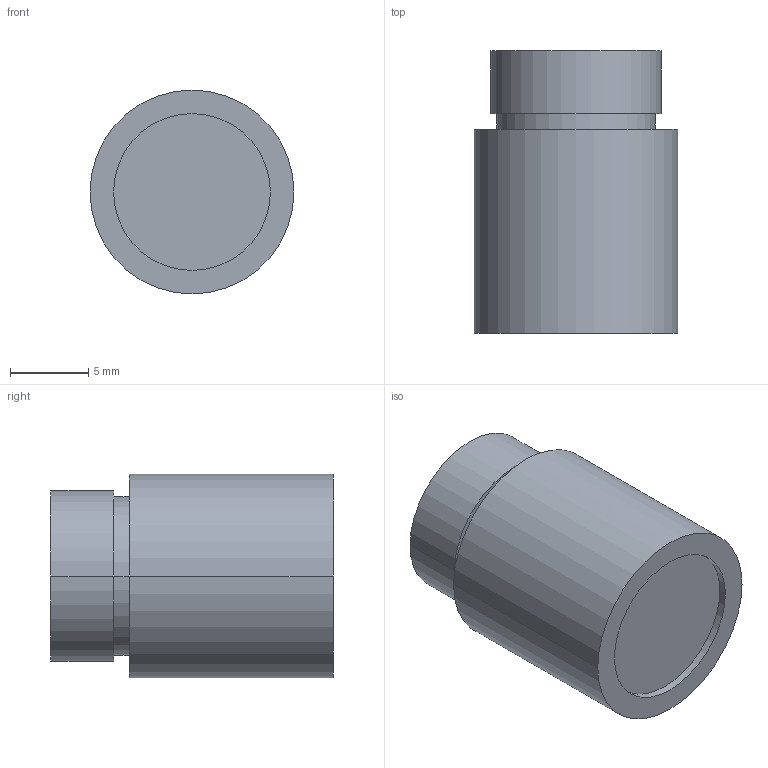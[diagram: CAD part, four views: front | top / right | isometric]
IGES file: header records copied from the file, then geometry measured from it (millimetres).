
Global section: file name: No Iges File Name specified; native system: AutoDesk Inventor R12.0; preprocessor: AutoDesk Inventor Iges Exporter R12.0; author: No Author specified; organization: No Organization specified; date: 20090616.160038; units: millimetre
Bounding box: 13 x 18 x 13 mm (x, y, z)
Volume: 2136.2 mm3; surface area: 1004.9 mm2
Topology: 1 solids, 1 shells, 13 faces, 24 edges, 16 vertices
Faces by surface type: cylinder 6, plane 5, revolution 2
